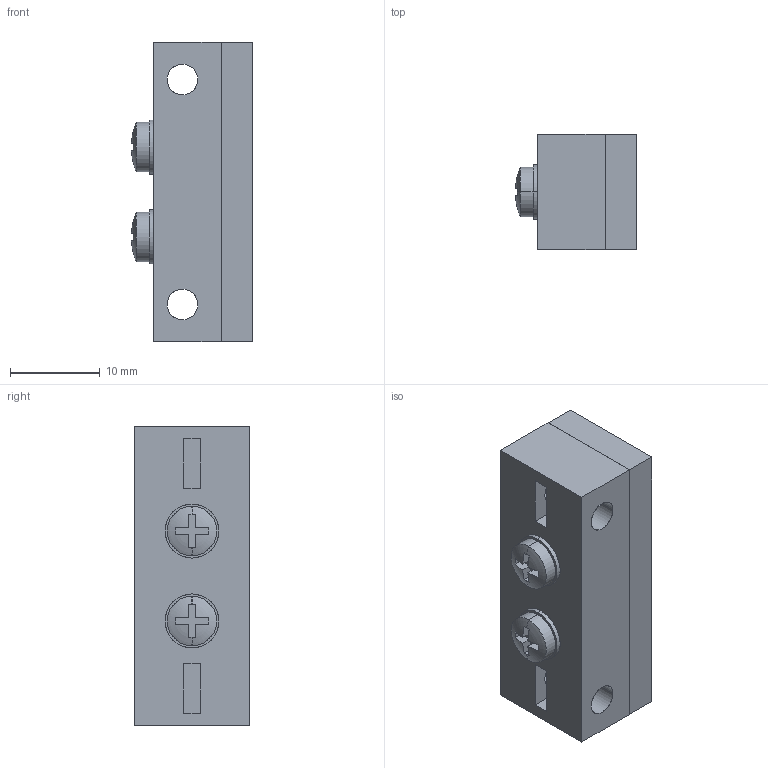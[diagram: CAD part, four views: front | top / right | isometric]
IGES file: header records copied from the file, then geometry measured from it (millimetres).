
Start section: SolidWorks IGES file using analytic representation for surfaces
Global section: file name: C:\catalog\RF-210.IGS; native system: SolidWorks 2005 by SolidWorks Corporation; preprocessor: SolidWorks 2005 by SolidWorks Corporation; author: yk0651; date: 070731.170410; units: millimetre
Bounding box: 13.48 x 12.8 x 33.3 mm (x, y, z)
Surface area: 3080.1 mm2 (no closed solid volume)
Topology: 0 solids, 0 shells, 117 faces, 1536 edges, 1536 vertices
Faces by surface type: bspline 81, revolution 36
